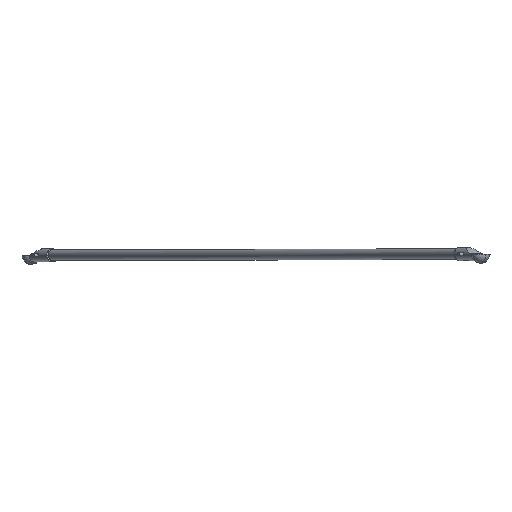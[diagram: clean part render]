
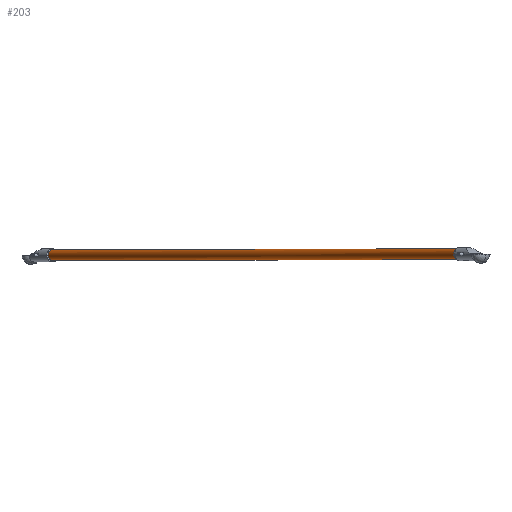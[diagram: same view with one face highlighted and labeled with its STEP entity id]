
A CAD part, top view. The second image highlights one B-rep face of the part: STEP entity #203.
In plain terms, the highlighted cylindrical face has radius 7 mm (diameter 14 mm), a partial arc.
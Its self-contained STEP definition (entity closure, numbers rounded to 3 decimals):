
#46 = CIRCLE ( 'NONE', #1197, 7. ) ;
#72 = DIRECTION ( 'NONE',  ( -0.531, 0., -0.848 ) ) ;
#86 = CARTESIAN_POINT ( 'NONE',  ( 72.883, -51., -1167.888 ) ) ;
#154 = DIRECTION ( 'NONE',  ( -0.531, 0., -0.848 ) ) ;
#160 = VERTEX_POINT ( 'NONE', #959 ) ;
#203 = ADVANCED_FACE ( 'NONE', ( #1230 ), #1663, .T. ) ;
#290 = EDGE_CURVE ( 'NONE', #1690, #160, #1136, .T. ) ;
#317 = AXIS2_PLACEMENT_3D ( 'NONE', #1504, #154, #1628 ) ;
#333 = LINE ( 'NONE', #1668, #446 ) ;
#378 = ORIENTED_EDGE ( 'NONE', *, *, #1002, .T. ) ;
#446 = VECTOR ( 'NONE', #1285, 1000. ) ;
#619 = EDGE_LOOP ( 'NONE', ( #1059, #1488, #378, #1438 ) ) ;
#620 = LINE ( 'NONE', #1696, #655 ) ;
#655 = VECTOR ( 'NONE', #72, 1000. ) ;
#681 = EDGE_CURVE ( 'NONE', #160, #1274, #620, .T. ) ;
#746 = CARTESIAN_POINT ( 'NONE',  ( 72.883, -44., -1167.888 ) ) ;
#898 = DIRECTION ( 'NONE',  ( 0.531, 0., 0.848 ) ) ;
#901 = CARTESIAN_POINT ( 'NONE',  ( 604.075, -44., -319.457 ) ) ;
#928 = CARTESIAN_POINT ( 'NONE',  ( 72.883, -58., -1167.888 ) ) ;
#959 = CARTESIAN_POINT ( 'NONE',  ( 604.075, -58., -319.457 ) ) ;
#1002 = EDGE_CURVE ( 'NONE', #1690, #1027, #333, .T. ) ;
#1009 = CARTESIAN_POINT ( 'NONE',  ( 604.075, -51., -319.457 ) ) ;
#1027 = VERTEX_POINT ( 'NONE', #746 ) ;
#1059 = ORIENTED_EDGE ( 'NONE', *, *, #681, .F. ) ;
#1064 = DIRECTION ( 'NONE',  ( 0., 1., 0. ) ) ;
#1136 = CIRCLE ( 'NONE', #1529, 7. ) ;
#1197 = AXIS2_PLACEMENT_3D ( 'NONE', #86, #1701, #1064 ) ;
#1212 = EDGE_CURVE ( 'NONE', #1027, #1274, #46, .T. ) ;
#1230 = FACE_OUTER_BOUND ( 'NONE', #619, .T. ) ;
#1274 = VERTEX_POINT ( 'NONE', #928 ) ;
#1281 = DIRECTION ( 'NONE',  ( -0.848, 0., 0.531 ) ) ;
#1285 = DIRECTION ( 'NONE',  ( -0.531, 0., -0.848 ) ) ;
#1438 = ORIENTED_EDGE ( 'NONE', *, *, #1212, .T. ) ;
#1488 = ORIENTED_EDGE ( 'NONE', *, *, #290, .F. ) ;
#1504 = CARTESIAN_POINT ( 'NONE',  ( 614.157, -51., -303.353 ) ) ;
#1529 = AXIS2_PLACEMENT_3D ( 'NONE', #1009, #898, #1281 ) ;
#1628 = DIRECTION ( 'NONE',  ( 0., 1., 0. ) ) ;
#1663 = CYLINDRICAL_SURFACE ( 'NONE', #317, 7. ) ;
#1668 = CARTESIAN_POINT ( 'NONE',  ( 614.157, -44., -303.353 ) ) ;
#1690 = VERTEX_POINT ( 'NONE', #901 ) ;
#1696 = CARTESIAN_POINT ( 'NONE',  ( 614.157, -58., -303.353 ) ) ;
#1701 = DIRECTION ( 'NONE',  ( 0.531, 0., 0.848 ) ) ;
